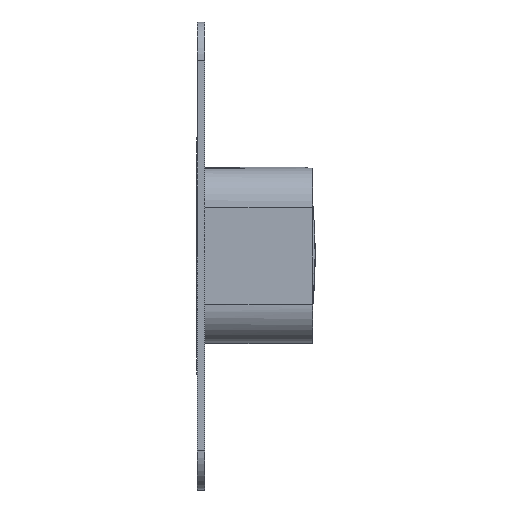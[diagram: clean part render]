
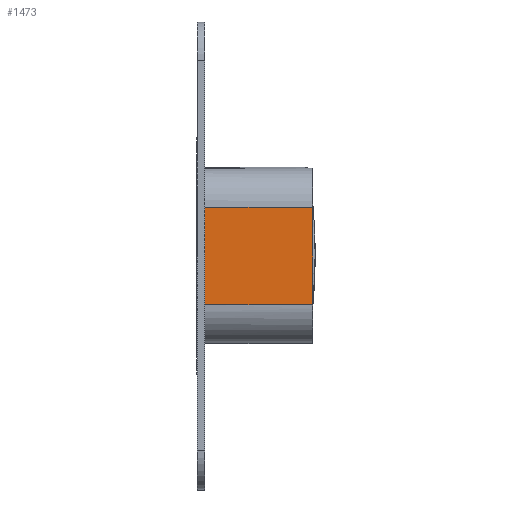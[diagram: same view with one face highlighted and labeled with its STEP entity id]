
A CAD part, left-side view. The second image highlights one B-rep face of the part: STEP entity #1473.
In plain terms, the highlighted planar face has unit normal (-1, 0, 0).
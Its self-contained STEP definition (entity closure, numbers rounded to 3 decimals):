
#49 = DIRECTION ( 'NONE',  ( 1., 0., 0. ) ) ;
#87 = CARTESIAN_POINT ( 'NONE',  ( -148.514, 38.35, 12.5 ) ) ;
#263 = CARTESIAN_POINT ( 'NONE',  ( -148.514, 10.72, -4.166 ) ) ;
#288 = CARTESIAN_POINT ( 'NONE',  ( -148.514, 10.746, 8.334 ) ) ;
#495 = CARTESIAN_POINT ( 'NONE',  ( -148.514, 6.582, 12.5 ) ) ;
#776 = VERTEX_POINT ( 'NONE', #5562 ) ;
#842 = EDGE_CURVE ( 'NONE', #1838, #776, #5097, .T. ) ;
#897 = ORIENTED_EDGE ( 'NONE', *, *, #3945, .F. ) ;
#927 = VECTOR ( 'NONE', #3938, 1000. ) ;
#1075 = B_SPLINE_CURVE_WITH_KNOTS ( 'NONE', 3,
 ( #2526, #288, #5034, #1210 ),
 .UNSPECIFIED., .F., .F.,
 ( 4, 4 ),
 ( 0., 1. ),
 .UNSPECIFIED. ) ;
#1210 = CARTESIAN_POINT ( 'NONE',  ( -148.514, 10.72, 0. ) ) ;
#1245 = CARTESIAN_POINT ( 'NONE',  ( -148.514, 38.35, -18.85 ) ) ;
#1298 = CARTESIAN_POINT ( 'NONE',  ( -148.514, 10.798, -12.5 ) ) ;
#1398 = VECTOR ( 'NONE', #4677, 1000. ) ;
#1473 = ADVANCED_FACE ( 'NONE', ( #3752 ), #1487, .F. ) ;
#1487 = PLANE ( 'NONE',  #2381 ) ;
#1512 = ORIENTED_EDGE ( 'NONE', *, *, #842, .T. ) ;
#1524 = CARTESIAN_POINT ( 'NONE',  ( -148.514, 10.746, -8.333 ) ) ;
#1530 = B_SPLINE_CURVE_WITH_KNOTS ( 'NONE', 3,
 ( #2327, #263, #1524, #2724 ),
 .UNSPECIFIED., .F., .F.,
 ( 4, 4 ),
 ( 0., 1. ),
 .UNSPECIFIED. ) ;
#1670 = ORIENTED_EDGE ( 'NONE', *, *, #4394, .F. ) ;
#1754 = DIRECTION ( 'NONE',  ( 0., 1., 0. ) ) ;
#1838 = VERTEX_POINT ( 'NONE', #87 ) ;
#2211 = ORIENTED_EDGE ( 'NONE', *, *, #3127, .F. ) ;
#2219 = LINE ( 'NONE', #495, #927 ) ;
#2243 = CARTESIAN_POINT ( 'NONE',  ( -148.514, 6.582, -12.5 ) ) ;
#2327 = CARTESIAN_POINT ( 'NONE',  ( -148.514, 10.72, 0. ) ) ;
#2381 = AXIS2_PLACEMENT_3D ( 'NONE', #4311, #49, #2901 ) ;
#2526 = CARTESIAN_POINT ( 'NONE',  ( -148.514, 10.798, 12.5 ) ) ;
#2724 = CARTESIAN_POINT ( 'NONE',  ( -148.514, 10.798, -12.5 ) ) ;
#2853 = EDGE_LOOP ( 'NONE', ( #2211, #1670, #897, #1512, #2936 ) ) ;
#2901 = DIRECTION ( 'NONE',  ( 0., 0., 1. ) ) ;
#2936 = ORIENTED_EDGE ( 'NONE', *, *, #3329, .F. ) ;
#3127 = EDGE_CURVE ( 'NONE', #4594, #5400, #1530, .T. ) ;
#3241 = VERTEX_POINT ( 'NONE', #4135 ) ;
#3329 = EDGE_CURVE ( 'NONE', #5400, #776, #3886, .T. ) ;
#3471 = CARTESIAN_POINT ( 'NONE',  ( -148.514, 10.72, 0. ) ) ;
#3752 = FACE_OUTER_BOUND ( 'NONE', #2853, .T. ) ;
#3886 = LINE ( 'NONE', #2243, #5232 ) ;
#3938 = DIRECTION ( 'NONE',  ( 0., -1., 0. ) ) ;
#3945 = EDGE_CURVE ( 'NONE', #1838, #3241, #2219, .T. ) ;
#4135 = CARTESIAN_POINT ( 'NONE',  ( -148.514, 10.798, 12.5 ) ) ;
#4311 = CARTESIAN_POINT ( 'NONE',  ( -148.514, 6.582, -20. ) ) ;
#4394 = EDGE_CURVE ( 'NONE', #3241, #4594, #1075, .T. ) ;
#4594 = VERTEX_POINT ( 'NONE', #3471 ) ;
#4677 = DIRECTION ( 'NONE',  ( 0., 0., -1. ) ) ;
#5034 = CARTESIAN_POINT ( 'NONE',  ( -148.514, 10.72, 4.167 ) ) ;
#5097 = LINE ( 'NONE', #1245, #1398 ) ;
#5232 = VECTOR ( 'NONE', #1754, 1000. ) ;
#5400 = VERTEX_POINT ( 'NONE', #1298 ) ;
#5562 = CARTESIAN_POINT ( 'NONE',  ( -148.514, 38.35, -12.5 ) ) ;
